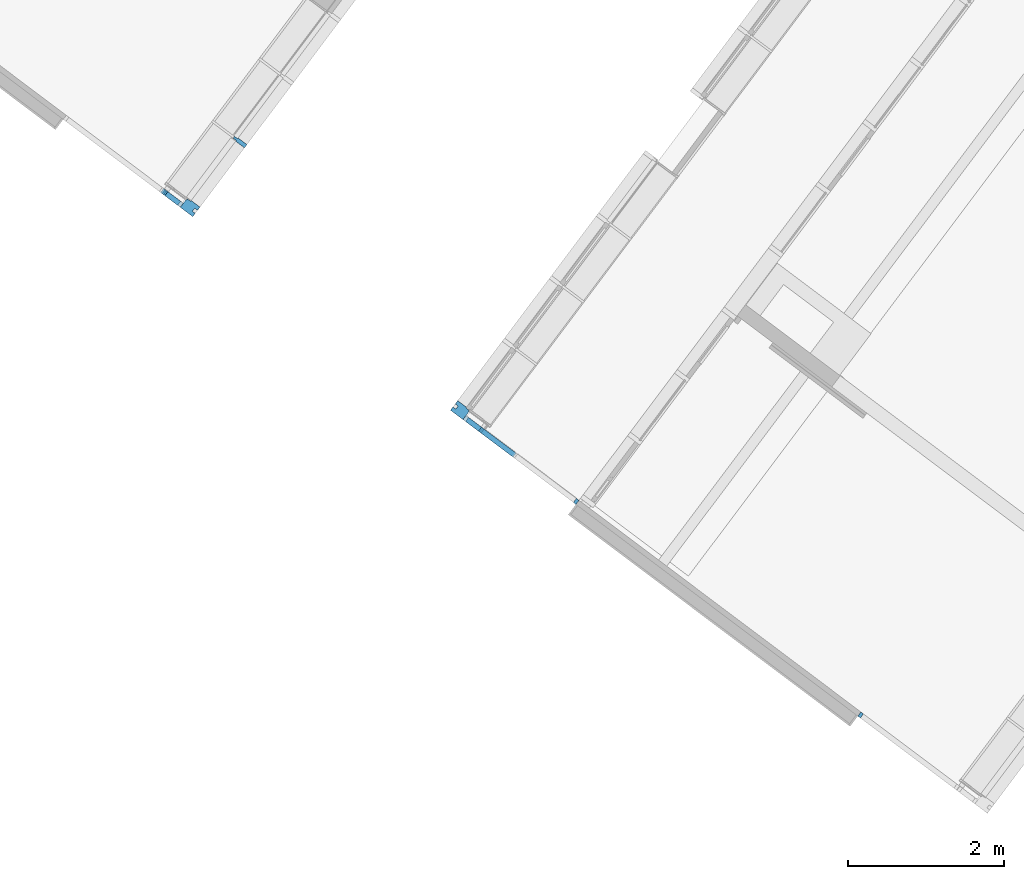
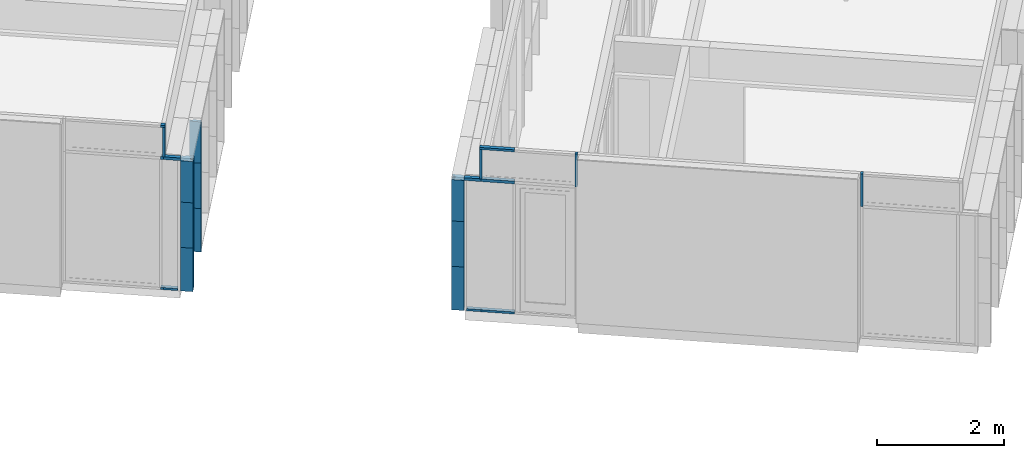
# One storey, part 91 of 243: 23 members, 5 elements without a shape of their own.
"""IFC2X3 building model written with IfcOpenShell, lengths in metres."""

from ifc_helpers import new_model, entity, si_unit, converted_unit, derived_unit, direction, frame, frame_2d, origin, origin_2d_with_axis, place, context, subcontext, project, spatial, polyline, rectangle, outline, extrude, source, transform, mapped, material, type_object, type_shapes, element, aggregate, save


model = new_model("IFC2X3")

# Units and contexts
model_context = context("Model", 3, precision=1e-05, world=origin(), true_north=direction((6.123031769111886e-17, 1.0)))
body_context = subcontext(model_context, "Body", "Model", "MODEL_VIEW")
ifc_project = project(units=[si_unit("LENGTHUNIT", "METRE"), si_unit("AREAUNIT", "SQUARE_METRE"), si_unit("VOLUMEUNIT", "CUBIC_METRE"), converted_unit("PLANEANGLEUNIT", "DEGREE", entity("IfcRatioMeasure", 0.017453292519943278), si_unit("PLANEANGLEUNIT", "RADIAN"), dimensions=[0, 0, 0, 0, 0, 0, 0]), si_unit("MASSUNIT", "GRAM", prefix="KILO"), derived_unit("MASSDENSITYUNIT", [(si_unit("MASSUNIT", "GRAM", prefix="KILO"), 1), (si_unit("LENGTHUNIT", "METRE"), -3)]), derived_unit("IONCONCENTRATIONUNIT", [(si_unit("MASSUNIT", "GRAM", prefix="KILO"), 1), (si_unit("LENGTHUNIT", "METRE"), -3)]), derived_unit("MOMENTOFINERTIAUNIT", [(si_unit("LENGTHUNIT", "METRE"), 4)]), si_unit("TIMEUNIT", "SECOND"), si_unit("FREQUENCYUNIT", "HERTZ"), si_unit("THERMODYNAMICTEMPERATUREUNIT", "DEGREE_CELSIUS"), derived_unit("THERMALTRANSMITTANCEUNIT", [(si_unit("MASSUNIT", "GRAM", prefix="KILO"), 1), (si_unit("THERMODYNAMICTEMPERATUREUNIT", "KELVIN"), -1), (si_unit("TIMEUNIT", "SECOND"), -3)]), derived_unit("THERMALCONDUCTANCEUNIT", [(si_unit("MASSUNIT", "GRAM", prefix="KILO"), 1), (si_unit("THERMODYNAMICTEMPERATUREUNIT", "KELVIN"), -1), (si_unit("TIMEUNIT", "SECOND"), -3), (si_unit("LENGTHUNIT", "METRE"), 1)]), derived_unit("VOLUMETRICFLOWRATEUNIT", [(si_unit("LENGTHUNIT", "METRE"), 3), (si_unit("TIMEUNIT", "SECOND"), -1)]), derived_unit("MASSFLOWRATEUNIT", [(si_unit("MASSUNIT", "GRAM", prefix="KILO"), 1), (si_unit("TIMEUNIT", "SECOND"), -1)]), derived_unit("ROTATIONALFREQUENCYUNIT", [(si_unit("TIMEUNIT", "SECOND"), -1)]), si_unit("ELECTRICCURRENTUNIT", "AMPERE"), si_unit("ELECTRICVOLTAGEUNIT", "VOLT"), si_unit("POWERUNIT", "WATT"), si_unit("FORCEUNIT", "NEWTON", prefix="KILO"), si_unit("ILLUMINANCEUNIT", "LUX"), si_unit("LUMINOUSFLUXUNIT", "LUMEN"), si_unit("LUMINOUSINTENSITYUNIT", "CANDELA"), derived_unit("USERDEFINED", [(si_unit("MASSUNIT", "GRAM", prefix="KILO"), -1), (si_unit("LENGTHUNIT", "METRE"), -2), (si_unit("TIMEUNIT", "SECOND"), 3), (si_unit("LUMINOUSFLUXUNIT", "LUMEN"), 1)]), derived_unit("USERDEFINED", [(si_unit("MASSUNIT", "GRAM", prefix="KILO"), 1), (si_unit("TIMEUNIT", "SECOND"), -3), (si_unit("LENGTHUNIT", "METRE"), 3), (si_unit("ELECTRICCURRENTUNIT", "AMPERE"), -2)]), derived_unit("SOUNDPOWERUNIT", [(si_unit("MASSUNIT", "GRAM", prefix="KILO"), 1), (si_unit("TIMEUNIT", "SECOND"), -3), (si_unit("LENGTHUNIT", "METRE"), 2)]), derived_unit("SOUNDPRESSUREUNIT", [(si_unit("MASSUNIT", "GRAM", prefix="KILO"), 1), (si_unit("LENGTHUNIT", "METRE"), -1), (si_unit("TIMEUNIT", "SECOND"), -2)]), derived_unit("LINEARVELOCITYUNIT", [(si_unit("LENGTHUNIT", "METRE"), 1), (si_unit("TIMEUNIT", "SECOND"), -1)]), si_unit("PRESSUREUNIT", "PASCAL"), derived_unit("USERDEFINED", [(si_unit("MASSUNIT", "GRAM", prefix="KILO"), 1), (si_unit("LENGTHUNIT", "METRE"), -2), (si_unit("TIMEUNIT", "SECOND"), -2)]), derived_unit("LINEARFORCEUNIT", [(si_unit("MASSUNIT", "GRAM", prefix="KILO"), 1), (si_unit("TIMEUNIT", "SECOND"), -2)]), derived_unit("PLANARFORCEUNIT", [(si_unit("MASSUNIT", "GRAM", prefix="KILO"), 1), (si_unit("LENGTHUNIT", "METRE"), -1), (si_unit("TIMEUNIT", "SECOND"), -2)]), derived_unit("SPECIFICHEATCAPACITYUNIT", [(si_unit("THERMODYNAMICTEMPERATUREUNIT", "KELVIN"), -1), (si_unit("LENGTHUNIT", "METRE"), 2), (si_unit("TIMEUNIT", "SECOND"), -2)]), derived_unit("HEATINGVALUEUNIT", [(si_unit("LENGTHUNIT", "METRE"), 2), (si_unit("TIMEUNIT", "SECOND"), -2)]), derived_unit("VAPORPERMEABILITYUNIT", [(si_unit("LENGTHUNIT", "METRE"), -1), (si_unit("TIMEUNIT", "SECOND"), 1)]), derived_unit("DYNAMICVISCOSITYUNIT", [(si_unit("MASSUNIT", "GRAM", prefix="KILO"), 1), (si_unit("TIMEUNIT", "SECOND"), -1), (si_unit("LENGTHUNIT", "METRE"), -1)]), derived_unit("THERMALEXPANSIONCOEFFICIENTUNIT", [(si_unit("THERMODYNAMICTEMPERATUREUNIT", "KELVIN"), -1)]), derived_unit("MODULUSOFELASTICITYUNIT", [(si_unit("MASSUNIT", "GRAM", prefix="KILO"), 1), (si_unit("LENGTHUNIT", "METRE"), -1), (si_unit("TIMEUNIT", "SECOND"), -2)]), derived_unit("ISOTHERMALMOISTURECAPACITYUNIT", [(si_unit("LENGTHUNIT", "METRE"), 3), (si_unit("MASSUNIT", "GRAM", prefix="KILO"), -1)]), derived_unit("MOISTUREDIFFUSIVITYUNIT", [(si_unit("TIMEUNIT", "SECOND"), -1), (si_unit("LENGTHUNIT", "METRE"), 2)])], contexts=[model_context])

# Site, building, storey
site_placement = place(None, frame((0.0, 0.0, 235.0), z_axis=(0.0, 0.0, 1.0), x_axis=(-0.7996477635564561, 0.6004693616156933, 0.0)))
site = spatial("IfcSite", under=ifc_project, at=site_placement, Name="Default", CompositionType="ELEMENT")
building_placement = place(site_placement, origin())
building = spatial("IfcBuilding", under=site, at=building_placement, CompositionType="ELEMENT")
storey_placement = place(building_placement, origin())
storey = spatial("IfcBuildingStorey", under=building, at=storey_placement, Name="P0- Escola", CompositionType="ELEMENT", Elevation=0.0)

# Curtain wall, members
curtain_wall_type_1 = type_object("IfcCurtainWallType", Name="Muro cortina:MC- EXT- MC2", PredefinedType="NOTDEFINED")
curtain_wall_1_placement = place(storey_placement, origin())
curtain_wall_1 = element("IfcCurtainWall", 1, at=curtain_wall_1_placement, inside=storey, type_object=curtain_wall_type_1, Name="Muro cortina:MC- EXT- MC2", ObjectType="Muro cortina:MC- EXT- MC2")
ifc_material = material(Name="_Alumini- T1- Perfil")
member_type_1 = type_object("IfcMemberType", Name="Montante rectangular:MC- Alu- 140x52,5 cm- Fa patis- Centre", PredefinedType="MULLION", material=ifc_material)
shared_shape_1 = source(origin(), body_context, "Body", "SweptSolid", [
    extrude(outline(polyline([(-0.11699999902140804, -0.026250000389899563), (0.021999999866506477, -0.026250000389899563), (0.021999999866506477, -0.01500000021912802), (0.07299999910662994, -0.01500000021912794), (0.07299999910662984, 0.015000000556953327), (0.02200000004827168, 0.015000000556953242), (0.02200000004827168, 0.026250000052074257), (-0.11699999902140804, 0.026250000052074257), (-0.11699999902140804, -0.026250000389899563)])), frame((0.0, 0.022999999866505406, -0.8400000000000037), z_axis=(0.0, 0.0, 1.0), x_axis=(0.0, -1.0, 0.0)), (0.0, 0.0, 1.0), 0.8400000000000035),
])
type_shapes(member_type_1, [shared_shape_1])
member_1_placement = place(curtain_wall_1_placement, frame((66.44514768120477, -21.415191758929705, -0.02), z_axis=(0.0, 0.0, -1.0), x_axis=(0.0, -1.0, 0.0)))
member_1 = element("IfcMember", 2, at=member_1_placement, type_object=member_type_1, material=ifc_material, Name="Montante rectangular:MC- Alu- 140x52,5 cm- Fa patis- Centre", ObjectType="Montante rectangular:MC- Alu- 140x52,5 cm- Fa patis- Centre", context=body_context, shape_type="MappedRepresentation", body=[
    mapped(shared_shape_1, transform((0.0, 0.0, 0.0), scale=1.0)),
])
member_type_2 = type_object("IfcMemberType", Name="Montante rectangular:MC- Alu- 140x52,5 cm- Fa patis- Centre", PredefinedType="MULLION", material=ifc_material)
shared_shape_2 = source(origin(), body_context, "Body", "SweptSolid", [
    extrude(outline(polyline([(-0.11699999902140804, -0.026250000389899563), (0.021999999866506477, -0.026250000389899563), (0.021999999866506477, -0.01500000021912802), (0.07299999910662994, -0.01500000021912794), (0.07299999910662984, 0.015000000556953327), (0.02200000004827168, 0.015000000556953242), (0.02200000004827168, 0.026250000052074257), (-0.11699999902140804, 0.026250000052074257), (-0.11699999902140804, -0.026250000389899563)])), frame((0.0, 0.022999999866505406, -0.8750000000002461), z_axis=(0.0, 0.0, 1.0), x_axis=(0.0, -1.0, 0.0)), (0.0, 0.0, 1.0), 0.8750000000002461),
])
type_shapes(member_type_2, [shared_shape_2])
member_2_placement = place(curtain_wall_1_placement, frame((66.44514768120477, -21.415191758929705, 0.8200000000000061), z_axis=(0.0, 0.0, -1.0), x_axis=(0.0, -1.0, 0.0)))
member_2 = element("IfcMember", 3, at=member_2_placement, type_object=member_type_2, material=ifc_material, Name="Montante rectangular:MC- Alu- 140x52,5 cm- Fa patis- Centre", ObjectType="Montante rectangular:MC- Alu- 140x52,5 cm- Fa patis- Centre", context=body_context, shape_type="MappedRepresentation", body=[
    mapped(shared_shape_2, transform((0.0, 0.0, 0.0), scale=1.0)),
])
member_type_3 = type_object("IfcMemberType", Name="Montante rectangular:MC- Alu- 140x52,5 cm- Fa patis- Cantonada", PredefinedType="MULLION", material=ifc_material)
shared_shape_3 = source(origin(), body_context, "Body", "SweptSolid", [
    extrude(outline(polyline([(-0.09566666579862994, -0.05708333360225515), (0.04333333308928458, -0.05708333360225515), (0.04333333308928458, -0.0458333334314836), (0.09433333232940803, -0.04583333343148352), (0.09433333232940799, -0.03083333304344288), (0.10433333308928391, -0.03083333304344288), (0.10433333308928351, 0.09541666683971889), (-0.09566666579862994, 0.09541666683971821), (-0.09566666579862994, 0.042916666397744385), (-0.05066666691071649, 0.042916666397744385), (-0.050666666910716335, -0.004583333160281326), (-0.09566666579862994, -0.004583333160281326), (-0.09566666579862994, -0.05708333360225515)])), frame((-0.09541666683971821, 0.04433333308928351, -0.8400000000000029), z_axis=(0.0, 0.0, 1.0), x_axis=(0.0, -1.0, 0.0)), (0.0, 0.0, 1.0), 0.8400000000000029),
])
type_shapes(member_type_3, [shared_shape_3])
member_3_placement = place(curtain_wall_1_placement, frame((66.44514768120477, -20.288941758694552, 0.8200000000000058), z_axis=(0.0, 0.0, 1.0), x_axis=(0.0, 1.0, 0.0)))
member_3 = element("IfcMember", 4, at=member_3_placement, type_object=member_type_3, material=ifc_material, Name="Montante rectangular:MC- Alu- 140x52,5 cm- Fa patis- Cantonada", ObjectType="Montante rectangular:MC- Alu- 140x52,5 cm- Fa patis- Cantonada", context=body_context, shape_type="MappedRepresentation", body=[
    mapped(shared_shape_3, transform((0.0, 0.0, 0.0), scale=1.0)),
])
member_type_4 = type_object("IfcMemberType", Name="Montante rectangular:MC- Alu- 140x52,5 cm- Fa patis- Cantonada", PredefinedType="MULLION", material=ifc_material)
shared_shape_4 = source(origin(), body_context, "Body", "SweptSolid", [
    extrude(outline(polyline([(-0.09566666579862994, -0.05708333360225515), (0.04333333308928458, -0.05708333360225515), (0.04333333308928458, -0.0458333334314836), (0.09433333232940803, -0.04583333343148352), (0.09433333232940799, -0.03083333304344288), (0.10433333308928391, -0.03083333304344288), (0.10433333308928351, 0.09541666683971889), (-0.09566666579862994, 0.09541666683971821), (-0.09566666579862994, 0.042916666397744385), (-0.05066666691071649, 0.042916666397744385), (-0.050666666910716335, -0.004583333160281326), (-0.09566666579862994, -0.004583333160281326), (-0.09566666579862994, -0.05708333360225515)])), frame((-0.09541666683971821, 0.04433333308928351, -0.7974999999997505), z_axis=(0.0, 0.0, 1.0), x_axis=(0.0, -1.0, 0.0)), (0.0, 0.0, 1.0), 0.7974999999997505),
])
type_shapes(member_type_4, [shared_shape_4])
member_4_placement = place(curtain_wall_1_placement, frame((66.44514768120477, -20.288941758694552, 2.4924999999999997), z_axis=(0.0, 0.0, 1.0), x_axis=(0.0, 1.0, 0.0)))
member_4 = element("IfcMember", 5, at=member_4_placement, type_object=member_type_4, material=ifc_material, Name="Montante rectangular:MC- Alu- 140x52,5 cm- Fa patis- Cantonada", ObjectType="Montante rectangular:MC- Alu- 140x52,5 cm- Fa patis- Cantonada", context=body_context, shape_type="MappedRepresentation", body=[
    mapped(shared_shape_4, transform((0.0, 0.0, 0.0), scale=1.0)),
])
member_type_5 = type_object("IfcMemberType", Name="Montante rectangular:MC- Alu- 140x52,5 cm- Fa patis- Cantonada", PredefinedType="MULLION", material=ifc_material)
shared_shape_5 = source(origin(), body_context, "Body", "SweptSolid", [
    extrude(outline(polyline([(-0.09566666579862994, -0.05708333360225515), (0.04333333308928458, -0.05708333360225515), (0.04333333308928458, -0.0458333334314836), (0.09433333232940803, -0.04583333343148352), (0.09433333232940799, -0.03083333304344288), (0.10433333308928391, -0.03083333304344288), (0.10433333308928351, 0.09541666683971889), (-0.09566666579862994, 0.09541666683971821), (-0.09566666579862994, 0.042916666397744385), (-0.05066666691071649, 0.042916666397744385), (-0.050666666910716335, -0.004583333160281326), (-0.09566666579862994, -0.004583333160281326), (-0.09566666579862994, -0.05708333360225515)])), frame((-0.09541666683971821, 0.04433333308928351, -0.8750000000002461), z_axis=(0.0, 0.0, 1.0), x_axis=(0.0, -1.0, 0.0)), (0.0, 0.0, 1.0), 0.8750000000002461),
])
type_shapes(member_type_5, [shared_shape_5])
member_5_placement = place(curtain_wall_1_placement, frame((66.44514768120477, -20.288941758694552, 1.6950000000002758), z_axis=(0.0, 0.0, 1.0), x_axis=(0.0, 1.0, 0.0)))
member_5 = element("IfcMember", 6, at=member_5_placement, type_object=member_type_5, material=ifc_material, Name="Montante rectangular:MC- Alu- 140x52,5 cm- Fa patis- Cantonada", ObjectType="Montante rectangular:MC- Alu- 140x52,5 cm- Fa patis- Cantonada", context=body_context, shape_type="MappedRepresentation", body=[
    mapped(shared_shape_5, transform((0.0, 0.0, 0.0), scale=1.0)),
])
member_type_6 = type_object("IfcMemberType", Name="Montante rectangular:MC- Alu- 140x52,5 cm- Fa patis- Centre", PredefinedType="MULLION", material=ifc_material)
shared_shape_6 = source(origin(), body_context, "Body", "SweptSolid", [
    extrude(outline(polyline([(-0.11699999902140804, -0.026250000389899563), (0.021999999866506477, -0.026250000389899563), (0.021999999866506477, -0.01500000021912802), (0.07299999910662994, -0.01500000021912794), (0.07299999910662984, 0.015000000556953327), (0.02200000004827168, 0.015000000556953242), (0.02200000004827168, 0.026250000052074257), (-0.11699999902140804, 0.026250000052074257), (-0.11699999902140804, -0.026250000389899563)])), frame((0.0, 0.022999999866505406, -0.79749999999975), z_axis=(0.0, 0.0, 1.0), x_axis=(0.0, -1.0, 0.0)), (0.0, 0.0, 1.0), 0.79749999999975),
])
type_shapes(member_type_6, [shared_shape_6])
member_6_placement = place(curtain_wall_1_placement, frame((66.44514768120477, -21.415191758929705, 1.6950000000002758), z_axis=(0.0, 0.0, -1.0), x_axis=(0.0, -1.0, 0.0)))
member_6 = element("IfcMember", 7, at=member_6_placement, type_object=member_type_6, material=ifc_material, Name="Montante rectangular:MC- Alu- 140x52,5 cm- Fa patis- Centre", ObjectType="Montante rectangular:MC- Alu- 140x52,5 cm- Fa patis- Centre", context=body_context, shape_type="MappedRepresentation", body=[
    mapped(shared_shape_6, transform((0.0, 0.0, 0.0), scale=1.0)),
])
aggregate(curtain_wall_1, [member_1, member_2, member_3, member_4, member_5, member_6])

curtain_wall_type_2 = type_object("IfcCurtainWallType", Name="Muro cortina:MC- EXT- AL1- Fa porxo", PredefinedType="NOTDEFINED")
curtain_wall_2_placement = place(storey_placement, origin())
curtain_wall_2 = element("IfcCurtainWall", 8, at=curtain_wall_2_placement, inside=storey, type_object=curtain_wall_type_2, Name="Muro cortina:MC- EXT- AL1- Fa porxo", ObjectType="Muro cortina:MC- EXT- AL1- Fa porxo")
member_type_7 = type_object("IfcMemberType", Name="Montante rectangular:MC- Alu- 65x41 cm- Fa Porxo- Centre", PredefinedType="MULLION", material=ifc_material)
shared_shape_7 = source(origin(), body_context, "Body", "SweptSolid", [
    extrude(rectangle(XDim=0.06500000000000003, YDim=0.041000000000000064, at=frame_2d((3.469446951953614e-18, -5.204170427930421e-18), x_axis=(1.0, 0.0))), frame((-0.020499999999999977, -0.032499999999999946, -0.2256666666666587), z_axis=(0.0, 0.0, 1.0), x_axis=(0.0, -1.0, 0.0)), (0.0, 0.0, 1.0), 0.22566666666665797),
])
type_shapes(member_type_7, [shared_shape_7])
member_7_placement = place(curtain_wall_2_placement, frame((61.94414768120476, -20.288941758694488, -0.020000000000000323), z_axis=(1.0, 0.0, 0.0), x_axis=(0.0, 0.0, -1.0)))
member_7 = element("IfcMember", 9, at=member_7_placement, type_object=member_type_7, material=ifc_material, Name="Montante rectangular:MC- Alu- 65x41 cm- Fa Porxo- Centre", ObjectType="Montante rectangular:MC- Alu- 65x41 cm- Fa Porxo- Centre", context=body_context, shape_type="MappedRepresentation", body=[
    mapped(shared_shape_7, transform((0.0, 0.0, 0.0), scale=1.0)),
])
member_type_8 = type_object("IfcMemberType", Name="Montante rectangular:MC- Alu- 65x41 cm- Fa Porxo- Centre", PredefinedType="MULLION", material=ifc_material)
shared_shape_8 = source(origin(), body_context, "Body", "SweptSolid", [
    extrude(rectangle(XDim=0.06500000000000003, YDim=0.041000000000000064, at=frame_2d((0.0, -8.673617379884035e-18), x_axis=(1.0, 0.0))), frame((-0.020500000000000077, -0.032499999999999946, -0.6312500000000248), z_axis=(0.0, 0.0, 1.0), x_axis=(0.0, -1.0, 0.0)), (0.0, 0.0, 1.0), 0.6312500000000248),
])
type_shapes(member_type_8, [shared_shape_8])
member_8_placement = place(curtain_wall_2_placement, frame((60.180147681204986, -20.288941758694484, 2.51875), z_axis=(0.0, 0.0, -1.0), x_axis=(-1.0, 0.0, 0.0)))
member_8 = element("IfcMember", 10, at=member_8_placement, type_object=member_type_8, material=ifc_material, Name="Montante rectangular:MC- Alu- 65x41 cm- Fa Porxo- Centre", ObjectType="Montante rectangular:MC- Alu- 65x41 cm- Fa Porxo- Centre", context=body_context, shape_type="MappedRepresentation", body=[
    mapped(shared_shape_8, transform((0.0, 0.0, 0.0), scale=1.0)),
])
member_type_9 = type_object("IfcMemberType", Name="Montante rectangular:MC- Alu- 65x52,5 cm- Fa Porxo- Centre", PredefinedType="MULLION", material=ifc_material)
shared_shape_9 = source(origin(), body_context, "Body", "SweptSolid", [
    extrude(rectangle(XDim=0.06500000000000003, YDim=0.05300000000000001, at=frame_2d((3.469446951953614e-18, 3.469446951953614e-18), x_axis=(1.0, 0.0))), frame((0.0, -0.03249999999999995, -0.266666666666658), z_axis=(0.0, 0.0, 1.0), x_axis=(0.0, -1.0, 0.0)), (0.0, 0.0, 1.0), 0.266666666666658),
])
type_shapes(member_type_9, [shared_shape_9])
member_9_placement = place(curtain_wall_2_placement, frame((61.7184810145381, -20.288941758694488, 2.51875), z_axis=(-1.0, 0.0, 0.0), x_axis=(0.0, 0.0, 1.0)))
member_9 = element("IfcMember", 11, at=member_9_placement, type_object=member_type_9, material=ifc_material, Name="Montante rectangular:MC- Alu- 65x52,5 cm- Fa Porxo- Centre", ObjectType="Montante rectangular:MC- Alu- 65x52,5 cm- Fa Porxo- Centre", context=body_context, shape_type="MappedRepresentation", body=[
    mapped(shared_shape_9, transform((0.0, 0.0, 0.0), scale=1.0)),
])
member_type_10 = type_object("IfcMemberType", Name="Montante rectangular:MC- Alu- 65x41 cm- Fa Porxo- Centre", PredefinedType="MULLION", material=ifc_material)
shared_shape_10 = source(origin(), body_context, "Body", "SweptSolid", [
    extrude(rectangle(XDim=0.06500000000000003, YDim=0.041000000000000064, at=frame_2d((0.0, -8.673617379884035e-18), x_axis=(1.0, 0.0))), frame((-0.020500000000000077, -0.032499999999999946, -0.5538333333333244), z_axis=(0.0, 0.0, 1.0), x_axis=(0.0, -1.0, 0.0)), (0.0, 0.0, 1.0), 0.5538333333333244),
])
type_shapes(member_type_10, [shared_shape_10])
member_10_placement = place(curtain_wall_2_placement, frame((61.185147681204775, -20.288941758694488, 3.150000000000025), z_axis=(-1.0, 0.0, 0.0), x_axis=(0.0, 0.0, 1.0)))
member_10 = element("IfcMember", 12, at=member_10_placement, type_object=member_type_10, material=ifc_material, Name="Montante rectangular:MC- Alu- 65x41 cm- Fa Porxo- Centre", ObjectType="Montante rectangular:MC- Alu- 65x41 cm- Fa Porxo- Centre", context=body_context, shape_type="MappedRepresentation", body=[
    mapped(shared_shape_10, transform((0.0, 0.0, 0.0), scale=1.0)),
])
member_type_11 = type_object("IfcMemberType", Name="Montante rectangular:MC- Alu- 65x41 cm- Fa Porxo- Centre", PredefinedType="MULLION", material=ifc_material)
shared_shape_11 = source(origin(), body_context, "Body", "SweptSolid", [
    extrude(rectangle(XDim=0.06500000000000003, YDim=0.041000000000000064, at=frame_2d((3.469446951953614e-18, -5.204170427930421e-18), x_axis=(1.0, 0.0))), frame((-0.020499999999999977, -0.032499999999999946, -0.5333333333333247), z_axis=(0.0, 0.0, 1.0), x_axis=(0.0, -1.0, 0.0)), (0.0, 0.0, 1.0), 0.5333333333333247),
])
type_shapes(member_type_11, [shared_shape_11])
member_11_placement = place(curtain_wall_2_placement, frame((61.7184810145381, -20.288941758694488, -0.02000000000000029), z_axis=(1.0, 0.0, 0.0), x_axis=(0.0, 0.0, -1.0)))
member_11 = element("IfcMember", 13, at=member_11_placement, type_object=member_type_11, material=ifc_material, Name="Montante rectangular:MC- Alu- 65x41 cm- Fa Porxo- Centre", ObjectType="Montante rectangular:MC- Alu- 65x41 cm- Fa Porxo- Centre", context=body_context, shape_type="MappedRepresentation", body=[
    mapped(shared_shape_11, transform((0.0, 0.0, 0.0), scale=1.0)),
])
member_type_12 = type_object("IfcMemberType", Name="Montante rectangular:MC- Alu- 65x52,5 cm- Fa Porxo- Centre", PredefinedType="MULLION", material=ifc_material)
shared_shape_12 = source(origin(), body_context, "Body", "SweptSolid", [
    extrude(rectangle(XDim=0.06500000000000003, YDim=0.05300000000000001, at=frame_2d((3.469446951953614e-18, 3.469446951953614e-18), x_axis=(1.0, 0.0))), frame((0.0, -0.03249999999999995, -0.5333333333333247), z_axis=(0.0, 0.0, 1.0), x_axis=(0.0, -1.0, 0.0)), (0.0, 0.0, 1.0), 0.5333333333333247),
])
type_shapes(member_type_12, [shared_shape_12])
member_12_placement = place(curtain_wall_2_placement, frame((61.185147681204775, -20.288941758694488, 2.51875), z_axis=(-1.0, 0.0, 0.0), x_axis=(0.0, 0.0, 1.0)))
member_12 = element("IfcMember", 14, at=member_12_placement, type_object=member_type_12, material=ifc_material, Name="Montante rectangular:MC- Alu- 65x52,5 cm- Fa Porxo- Centre", ObjectType="Montante rectangular:MC- Alu- 65x52,5 cm- Fa Porxo- Centre", context=body_context, shape_type="MappedRepresentation", body=[
    mapped(shared_shape_12, transform((0.0, 0.0, 0.0), scale=1.0)),
])
member_type_13 = type_object("IfcMemberType", Name="Montante rectangular:MC- Alu- 65x41 cm- Fa Porxo- Centre", PredefinedType="MULLION", material=ifc_material)
shared_shape_13 = source(origin(), body_context, "Body", "SweptSolid", [
    extrude(rectangle(XDim=0.06500000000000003, YDim=0.04100000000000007, at=frame_2d((0.0, -8.673617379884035e-18), x_axis=(1.0, 0.0))), frame((0.0, -0.032499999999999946, -0.5637500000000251), z_axis=(0.0, 0.0, 1.0), x_axis=(0.0, -1.0, 0.0)), (0.0, 0.0, 1.0), 0.5637500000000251),
])
type_shapes(member_type_13, [shared_shape_13])
member_13_placement = place(curtain_wall_2_placement, frame((61.7184810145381, -20.288941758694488, 2.54525), z_axis=(0.0, 0.0, -1.0), x_axis=(-1.0, 0.0, 0.0)))
member_13 = element("IfcMember", 15, at=member_13_placement, type_object=member_type_13, material=ifc_material, Name="Montante rectangular:MC- Alu- 65x41 cm- Fa Porxo- Centre", ObjectType="Montante rectangular:MC- Alu- 65x41 cm- Fa Porxo- Centre", context=body_context, shape_type="MappedRepresentation", body=[
    mapped(shared_shape_13, transform((0.0, 0.0, 0.0), scale=1.0)),
])
aggregate(curtain_wall_2, [member_7, member_8, member_9, member_10, member_11, member_12, member_13])

curtain_wall_type_3 = type_object("IfcCurtainWallType", Name="Muro cortina:MC- EXT- MC5", PredefinedType="NOTDEFINED")
curtain_wall_3_placement = place(storey_placement, origin())
curtain_wall_3 = element("IfcCurtainWall", 16, at=curtain_wall_3_placement, inside=storey, type_object=curtain_wall_type_3, Name="Muro cortina:MC- EXT- MC5", ObjectType="Muro cortina:MC- EXT- MC5")
member_type_14 = type_object("IfcMemberType", Name="Montante rectangular:MC- Alu- 140x52,5 cm- Fa patis- Cantonada", PredefinedType="MULLION", material=ifc_material)
shared_shape_14 = source(origin(), body_context, "Body", "SweptSolid", [
    extrude(outline(polyline([(-0.04333333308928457, -0.05708333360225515), (0.09566666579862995, -0.05708333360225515), (0.09566666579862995, -0.004583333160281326), (0.05066666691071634, -0.004583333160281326), (0.050666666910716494, 0.042916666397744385), (0.09566666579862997, 0.042916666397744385), (0.09566666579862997, 0.09541666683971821), (-0.1043333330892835, 0.09541666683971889), (-0.1043333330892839, -0.03083333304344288), (-0.09433333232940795, -0.030833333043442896), (-0.094333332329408, -0.04583333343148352), (-0.04333333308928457, -0.0458333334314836), (-0.04333333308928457, -0.05708333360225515)])), frame((-0.09541666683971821, -0.0443333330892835, -0.8400000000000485), z_axis=(0.0, 0.0, 1.0), x_axis=(0.0, -1.0, 0.0)), (0.0, 0.0, 1.0), 0.8400000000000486),
])
type_shapes(member_type_14, [shared_shape_14])
member_14_placement = place(curtain_wall_3_placement, frame((62.045147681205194, -20.288941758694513, 0.8200000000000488), z_axis=(0.0, 0.0, 1.0), x_axis=(0.0, 1.0, 0.0)))
member_14 = element("IfcMember", 17, at=member_14_placement, type_object=member_type_14, material=ifc_material, Name="Montante rectangular:MC- Alu- 140x52,5 cm- Fa patis- Cantonada", ObjectType="Montante rectangular:MC- Alu- 140x52,5 cm- Fa patis- Cantonada", context=body_context, shape_type="MappedRepresentation", body=[
    mapped(shared_shape_14, transform((0.0, 0.0, 0.0), scale=1.0)),
])
member_type_15 = type_object("IfcMemberType", Name="Montante rectangular:MC- Alu- 140x52,5 cm- Fa patis- Cantonada", PredefinedType="MULLION", material=ifc_material)
shared_shape_15 = source(origin(), body_context, "Body", "SweptSolid", [
    extrude(outline(polyline([(-0.04333333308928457, -0.05708333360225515), (0.09566666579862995, -0.05708333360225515), (0.09566666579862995, -0.004583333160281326), (0.05066666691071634, -0.004583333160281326), (0.050666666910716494, 0.042916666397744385), (0.09566666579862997, 0.042916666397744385), (0.09566666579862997, 0.09541666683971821), (-0.1043333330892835, 0.09541666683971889), (-0.1043333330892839, -0.03083333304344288), (-0.09433333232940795, -0.030833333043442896), (-0.094333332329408, -0.04583333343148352), (-0.04333333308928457, -0.0458333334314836), (-0.04333333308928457, -0.05708333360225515)])), frame((-0.09541666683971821, -0.0443333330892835, -0.7974999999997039), z_axis=(0.0, 0.0, 1.0), x_axis=(0.0, -1.0, 0.0)), (0.0, 0.0, 1.0), 0.7974999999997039),
])
type_shapes(member_type_15, [shared_shape_15])
member_15_placement = place(curtain_wall_3_placement, frame((62.045147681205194, -20.288941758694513, 2.4924999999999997), z_axis=(0.0, 0.0, 1.0), x_axis=(0.0, 1.0, 0.0)))
member_15 = element("IfcMember", 18, at=member_15_placement, type_object=member_type_15, material=ifc_material, Name="Montante rectangular:MC- Alu- 140x52,5 cm- Fa patis- Cantonada", ObjectType="Montante rectangular:MC- Alu- 140x52,5 cm- Fa patis- Cantonada", context=body_context, shape_type="MappedRepresentation", body=[
    mapped(shared_shape_15, transform((0.0, 0.0, 0.0), scale=1.0)),
])
member_type_16 = type_object("IfcMemberType", Name="Montante rectangular:MC- Alu- 140x52,5 cm- Fa patis- Cantonada", PredefinedType="MULLION", material=ifc_material)
shared_shape_16 = source(origin(), body_context, "Body", "SweptSolid", [
    extrude(outline(polyline([(-0.04333333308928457, -0.05708333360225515), (0.09566666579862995, -0.05708333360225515), (0.09566666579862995, -0.004583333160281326), (0.05066666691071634, -0.004583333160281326), (0.050666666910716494, 0.042916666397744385), (0.09566666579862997, 0.042916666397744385), (0.09566666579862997, 0.09541666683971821), (-0.1043333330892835, 0.09541666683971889), (-0.1043333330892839, -0.03083333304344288), (-0.09433333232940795, -0.030833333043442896), (-0.094333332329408, -0.04583333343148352), (-0.04333333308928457, -0.0458333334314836), (-0.04333333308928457, -0.05708333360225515)])), frame((-0.09541666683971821, -0.0443333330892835, -0.8750000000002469), z_axis=(0.0, 0.0, 1.0), x_axis=(0.0, -1.0, 0.0)), (0.0, 0.0, 1.0), 0.8750000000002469),
])
type_shapes(member_type_16, [shared_shape_16])
member_16_placement = place(curtain_wall_3_placement, frame((62.045147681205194, -20.288941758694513, 1.695000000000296), z_axis=(0.0, 0.0, 1.0), x_axis=(0.0, 1.0, 0.0)))
member_16 = element("IfcMember", 19, at=member_16_placement, type_object=member_type_16, material=ifc_material, Name="Montante rectangular:MC- Alu- 140x52,5 cm- Fa patis- Cantonada", ObjectType="Montante rectangular:MC- Alu- 140x52,5 cm- Fa patis- Cantonada", context=body_context, shape_type="MappedRepresentation", body=[
    mapped(shared_shape_16, transform((0.0, 0.0, 0.0), scale=1.0)),
])
aggregate(curtain_wall_3, [member_14, member_15, member_16])

# Curtain wall, member
curtain_wall_4_placement = place(storey_placement, origin())
curtain_wall_4 = element("IfcCurtainWall", 20, at=curtain_wall_4_placement, inside=storey, type_object=curtain_wall_type_2, Name="Muro cortina:MC- EXT- AL1- Fa porxo", ObjectType="Muro cortina:MC- EXT- AL1- Fa porxo")
member_type_17 = type_object("IfcMemberType", Name="Montante rectangular:MC- Alu- 65x41 cm- Fa Porxo- Centre", PredefinedType="MULLION", material=ifc_material)
shared_shape_17 = source(origin(), body_context, "Body", "SweptSolid", [
    extrude(rectangle(XDim=0.06500000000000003, YDim=0.04100000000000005, at=frame_2d((0.0, 5.204170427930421e-18), x_axis=(1.0, 0.0))), frame((-0.020499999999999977, 0.032499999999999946, -0.22566666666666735), z_axis=(0.0, 0.0, 1.0), x_axis=(0.0, -1.0, 0.0)), (0.0, 0.0, 1.0), 0.22566666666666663),
])
type_shapes(member_type_17, [shared_shape_17])
member_17_placement = place(curtain_wall_4_placement, frame((66.54614768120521, -20.28894175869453, -0.020000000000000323), z_axis=(-1.0, 0.0, 0.0), x_axis=(0.0, 0.0, -1.0)))
member_17 = element("IfcMember", 21, at=member_17_placement, type_object=member_type_17, material=ifc_material, Name="Montante rectangular:MC- Alu- 65x41 cm- Fa Porxo- Centre", ObjectType="Montante rectangular:MC- Alu- 65x41 cm- Fa Porxo- Centre", context=body_context, shape_type="MappedRepresentation", body=[
    mapped(shared_shape_17, transform((0.0, 0.0, 0.0), scale=1.0)),
])

curtain_wall_5_placement = place(storey_placement, origin())
curtain_wall_5 = element("IfcCurtainWall", 22, at=curtain_wall_5_placement, inside=storey, type_object=curtain_wall_type_2, Name="Muro cortina:MC- EXT- AL1- Fa porxo", ObjectType="Muro cortina:MC- EXT- AL1- Fa porxo")
member_type_18 = type_object("IfcMemberType", Name="Montante rectangular:MC- Alu- 65x41 cm- Fa Porxo- Centre", PredefinedType="MULLION", material=ifc_material)
shared_shape_18 = source(origin(), body_context, "Body", "SweptSolid", [
    extrude(rectangle(XDim=0.06500000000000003, YDim=0.041000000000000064, at=origin_2d_with_axis()), frame((-0.02050000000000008, 0.032499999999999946, -0.6312500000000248), z_axis=(0.0, 0.0, 1.0), x_axis=(0.0, -1.0, 0.0)), (0.0, 0.0, 1.0), 0.6312500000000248),
])
type_shapes(member_type_18, [shared_shape_18])
member_18_placement = place(curtain_wall_5_placement, frame((55.6751436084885, -20.288941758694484, 2.51875), z_axis=(0.0, 0.0, -1.0), x_axis=(1.0, 0.0, 0.0)))
member_18 = element("IfcMember", 23, at=member_18_placement, type_object=member_type_18, material=ifc_material, Name="Montante rectangular:MC- Alu- 65x41 cm- Fa Porxo- Centre", ObjectType="Montante rectangular:MC- Alu- 65x41 cm- Fa Porxo- Centre", context=body_context, shape_type="MappedRepresentation", body=[
    mapped(shared_shape_18, transform((0.0, 0.0, 0.0), scale=1.0)),
])
aggregate(curtain_wall_5, [member_18])

# Member
member_type_19 = type_object("IfcMemberType", Name="Montante rectangular:MC- Alu- 65x52,5 cm- Fa Porxo- Centre", PredefinedType="MULLION", material=ifc_material)
shared_shape_19 = source(origin(), body_context, "Body", "SweptSolid", [
    extrude(rectangle(XDim=0.06500000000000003, YDim=0.053000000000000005, at=frame_2d((3.469446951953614e-18, 5.204170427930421e-18), x_axis=(1.0, 0.0))), frame((0.0, 0.03249999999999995, -0.26666666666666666), z_axis=(0.0, 0.0, 1.0), x_axis=(0.0, -1.0, 0.0)), (0.0, 0.0, 1.0), 0.26666666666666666),
])
type_shapes(member_type_19, [shared_shape_19])
member_19_placement = place(curtain_wall_4_placement, frame((66.77181434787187, -20.28894175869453, 2.51875), z_axis=(1.0, 0.0, 0.0), x_axis=(0.0, 0.0, 1.0)))
member_19 = element("IfcMember", 24, at=member_19_placement, type_object=member_type_19, material=ifc_material, Name="Montante rectangular:MC- Alu- 65x52,5 cm- Fa Porxo- Centre", ObjectType="Montante rectangular:MC- Alu- 65x52,5 cm- Fa Porxo- Centre", context=body_context, shape_type="MappedRepresentation", body=[
    mapped(shared_shape_19, transform((0.0, 0.0, 0.0), scale=1.0)),
])

member_type_20 = type_object("IfcMemberType", Name="Montante rectangular:MC- Alu- 65x41 cm- Fa Porxo- Centre", PredefinedType="MULLION", material=ifc_material)
shared_shape_20 = source(origin(), body_context, "Body", "SweptSolid", [
    extrude(rectangle(XDim=0.06500000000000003, YDim=0.041000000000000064, at=origin_2d_with_axis()), frame((-0.02050000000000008, 0.03249999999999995, -0.06833333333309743), z_axis=(0.0, 0.0, 1.0), x_axis=(0.0, -1.0, 0.0)), (0.0, 0.0, 1.0), 0.06833333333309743),
])
type_shapes(member_type_20, [shared_shape_20])
member_20_placement = place(curtain_wall_4_placement, frame((66.81964768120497, -20.28894175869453, 3.150000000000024), z_axis=(1.0, 0.0, 0.0), x_axis=(0.0, 0.0, 1.0)))
member_20 = element("IfcMember", 25, at=member_20_placement, type_object=member_type_20, material=ifc_material, Name="Montante rectangular:MC- Alu- 65x41 cm- Fa Porxo- Centre", ObjectType="Montante rectangular:MC- Alu- 65x41 cm- Fa Porxo- Centre", context=body_context, shape_type="MappedRepresentation", body=[
    mapped(shared_shape_20, transform((0.0, 0.0, 0.0), scale=1.0)),
])

member_type_21 = type_object("IfcMemberType", Name="Montante rectangular:MC- Alu- 65x41 cm- Fa Porxo- Centre", PredefinedType="MULLION", material=ifc_material)
shared_shape_21 = source(origin(), body_context, "Body", "SweptSolid", [
    extrude(rectangle(XDim=0.06500000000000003, YDim=0.041000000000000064, at=frame_2d((0.0, 3.469446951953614e-18), x_axis=(1.0, 0.0))), frame((-0.02049999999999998, 0.032499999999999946, -0.04783333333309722), z_axis=(0.0, 0.0, 1.0), x_axis=(0.0, -1.0, 0.0)), (0.0, 0.0, 1.0), 0.04783333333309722),
])
type_shapes(member_type_21, [shared_shape_21])
member_21_placement = place(curtain_wall_4_placement, frame((66.77181434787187, -20.28894175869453, -0.02000000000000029), z_axis=(-1.0, 0.0, 0.0), x_axis=(0.0, 0.0, -1.0)))
member_21 = element("IfcMember", 26, at=member_21_placement, type_object=member_type_21, material=ifc_material, Name="Montante rectangular:MC- Alu- 65x41 cm- Fa Porxo- Centre", ObjectType="Montante rectangular:MC- Alu- 65x41 cm- Fa Porxo- Centre", context=body_context, shape_type="MappedRepresentation", body=[
    mapped(shared_shape_21, transform((0.0, 0.0, 0.0), scale=1.0)),
])

member_type_22 = type_object("IfcMemberType", Name="Montante rectangular:MC- Alu- 65x52,5 cm- Fa Porxo- Centre", PredefinedType="MULLION", material=ifc_material)
shared_shape_22 = source(origin(), body_context, "Body", "SweptSolid", [
    extrude(rectangle(XDim=0.06500000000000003, YDim=0.053000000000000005, at=frame_2d((3.469446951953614e-18, 5.204170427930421e-18), x_axis=(1.0, 0.0))), frame((0.0, 0.03249999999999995, -0.04783333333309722), z_axis=(0.0, 0.0, 1.0), x_axis=(0.0, -1.0, 0.0)), (0.0, 0.0, 1.0), 0.04783333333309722),
])
type_shapes(member_type_22, [shared_shape_22])
member_22_placement = place(curtain_wall_4_placement, frame((66.81964768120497, -20.28894175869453, 2.51875), z_axis=(1.0, 0.0, 0.0), x_axis=(0.0, 0.0, 1.0)))
member_22 = element("IfcMember", 27, at=member_22_placement, type_object=member_type_22, material=ifc_material, Name="Montante rectangular:MC- Alu- 65x52,5 cm- Fa Porxo- Centre", ObjectType="Montante rectangular:MC- Alu- 65x52,5 cm- Fa Porxo- Centre", context=body_context, shape_type="MappedRepresentation", body=[
    mapped(shared_shape_22, transform((0.0, 0.0, 0.0), scale=1.0)),
])

member_type_23 = type_object("IfcMemberType", Name="Montante rectangular:MC- Alu- 65x41 cm- Fa Porxo- Centre", PredefinedType="MULLION", material=ifc_material)
shared_shape_23 = source(origin(), body_context, "Body", "SweptSolid", [
    extrude(rectangle(XDim=0.06500000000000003, YDim=0.04100000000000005, at=frame_2d((3.469446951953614e-18, 6.938893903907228e-18), x_axis=(1.0, 0.0))), frame((0.0, 0.03249999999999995, -0.5637500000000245), z_axis=(0.0, 0.0, 1.0), x_axis=(0.0, -1.0, 0.0)), (0.0, 0.0, 1.0), 0.5637500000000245),
])
type_shapes(member_type_23, [shared_shape_23])
member_23_placement = place(curtain_wall_4_placement, frame((66.77181434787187, -20.28894175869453, 2.54525), z_axis=(0.0, 0.0, -1.0), x_axis=(1.0, 0.0, 0.0)))
member_23 = element("IfcMember", 28, at=member_23_placement, type_object=member_type_23, material=ifc_material, Name="Montante rectangular:MC- Alu- 65x41 cm- Fa Porxo- Centre", ObjectType="Montante rectangular:MC- Alu- 65x41 cm- Fa Porxo- Centre", context=body_context, shape_type="MappedRepresentation", body=[
    mapped(shared_shape_23, transform((0.0, 0.0, 0.0), scale=1.0)),
])

aggregate(curtain_wall_4, [member_17, member_19, member_20, member_21, member_22, member_23])

save(model, "model.ifc")
